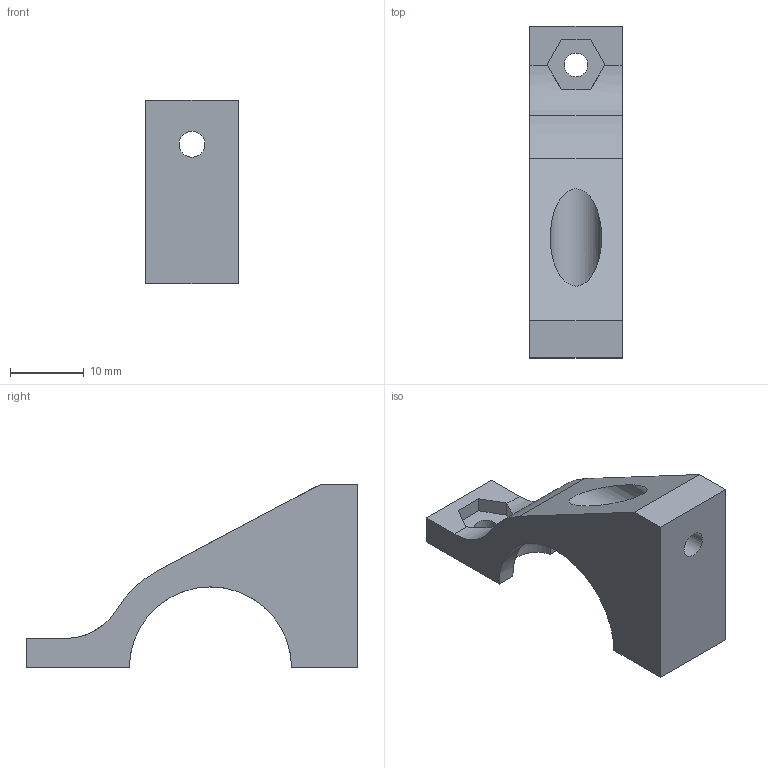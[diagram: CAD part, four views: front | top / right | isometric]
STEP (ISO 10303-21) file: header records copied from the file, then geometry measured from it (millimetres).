
FILE_DESCRIPTION(/* description */ (''),/* implementation_level */ '2;1');
FILE_NAME(/* name */ '/Users/simonhu/OneDrive - FH JOANNEUM/5Semsester/Projekt/3D/turret_final/left_bearing_half.step',/* time_stamp */ '2022-01-27T19:33:03+01:00',/* author */ (''),/* organization */ (''),/* preprocessor_version */ 'ST-DEVELOPER v18.1',/* originating_system */ 'Autodesk Translation Framework v10.13.0.1454',/* authorisation */ '');
FILE_SCHEMA (('AUTOMOTIVE_DESIGN { 1 0 10303 214 3 1 1 }'));
Length unit declared in the file: millimetre
Products named in the file (1): baus_mount
Bounding box: 12.5 x 45 x 24.94 mm (x, y, z)
Volume: 4770.6 mm3; surface area: 3095.3 mm2
Topology: 1 solids, 1 shells, 25 faces, 66 edges, 44 vertices
Faces by surface type: plane 17, cylinder 7, torus 1
Full cylindrical faces by diameter (mm): 3.2 x1, 3.5 x1, 7 x1
Entity records: 855 total; most frequent: CARTESIAN_POINT 178, ORIENTED_EDGE 132, DIRECTION 132, EDGE_CURVE 66, LINE 48, VECTOR 48, VERTEX_POINT 44, AXIS2_PLACEMENT_3D 42
